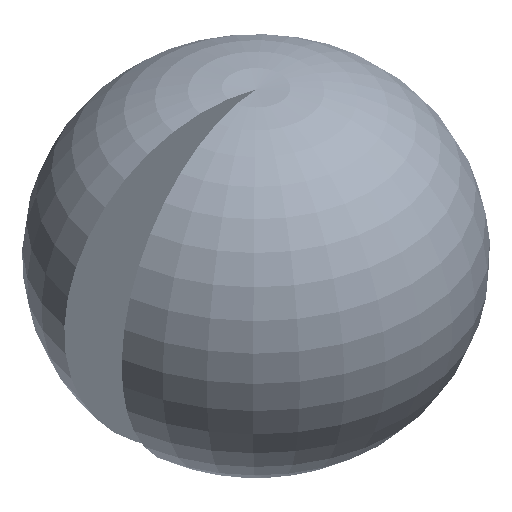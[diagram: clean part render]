
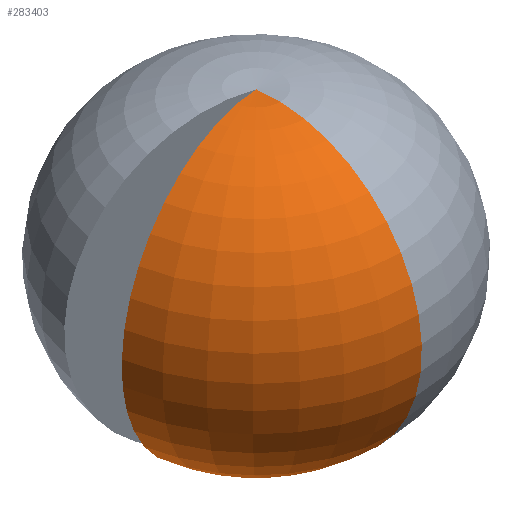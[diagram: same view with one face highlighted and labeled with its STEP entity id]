
A CAD part, isometric view. The second image highlights one B-rep face of the part: STEP entity #283403.
In plain terms, the highlighted toroidal (fillet/blend) face has major radius 279.64 mm and minor radius 2020.25 mm.
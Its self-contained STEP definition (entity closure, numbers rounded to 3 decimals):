
#9505 = AXIS2_PLACEMENT_3D ( 'NONE', #342851, #202472, #163663 ) ;
#20462 = VERTEX_POINT ( 'NONE', #37203 ) ;
#35901 = AXIS2_PLACEMENT_3D ( 'NONE', #294693, #82570, #259810 ) ;
#37203 = CARTESIAN_POINT ( 'NONE',  ( 0., -1438.405, -984.888 ) ) ;
#82554 = ORIENTED_EDGE ( 'NONE', *, *, #319457, .F. ) ;
#82570 = DIRECTION ( 'NONE',  ( 0., 0., 1. ) ) ;
#89555 = CARTESIAN_POINT ( 'NONE',  ( -275.391, -48.559, 670. ) ) ;
#97520 = DIRECTION ( 'NONE',  ( -1., 0., 0. ) ) ;
#120673 = DIRECTION ( 'NONE',  ( -0.174, 0.985, 0. ) ) ;
#128148 = CIRCLE ( 'NONE', #376997, 2020.245 ) ;
#130660 = CIRCLE ( 'NONE', #161540, 2020.245 ) ;
#149482 = VERTEX_POINT ( 'NONE', #270796 ) ;
#152594 = CIRCLE ( 'NONE', #9505, 1438.405 ) ;
#161540 = AXIS2_PLACEMENT_3D ( 'NONE', #89555, #120673, #354472 ) ;
#163663 = DIRECTION ( 'NONE',  ( 0., -1., 0. ) ) ;
#172500 = CARTESIAN_POINT ( 'NONE',  ( 0., 0., 2670.798 ) ) ;
#188444 = ORIENTED_EDGE ( 'NONE', *, *, #370293, .T. ) ;
#190957 = CARTESIAN_POINT ( 'NONE',  ( 0., -279.64, 670. ) ) ;
#202472 = DIRECTION ( 'NONE',  ( 0., 0., 1. ) ) ;
#242943 = EDGE_CURVE ( 'NONE', #149482, #20462, #152594, .T. ) ;
#259810 = DIRECTION ( 'NONE',  ( 0., -1., 0. ) ) ;
#270796 = CARTESIAN_POINT ( 'NONE',  ( -1416.552, -249.776, -984.888 ) ) ;
#283403 = ADVANCED_FACE ( 'NONE', ( #292793 ), #371687, .T. ) ;
#292793 = FACE_OUTER_BOUND ( 'NONE', #341918, .T. ) ;
#294693 = CARTESIAN_POINT ( 'NONE',  ( 0., 0., 670. ) ) ;
#319457 = EDGE_CURVE ( 'NONE', #149482, #349514, #130660, .T. ) ;
#330792 = ORIENTED_EDGE ( 'NONE', *, *, #242943, .T. ) ;
#335077 = DIRECTION ( 'NONE',  ( 0., 0., 1. ) ) ;
#341918 = EDGE_LOOP ( 'NONE', ( #330792, #188444, #82554 ) ) ;
#342851 = CARTESIAN_POINT ( 'NONE',  ( 0., 0., -984.888 ) ) ;
#349514 = VERTEX_POINT ( 'NONE', #172500 ) ;
#354472 = DIRECTION ( 'NONE',  ( -0.985, -0.174, 0. ) ) ;
#370293 = EDGE_CURVE ( 'NONE', #20462, #349514, #128148, .T. ) ;
#371687 = TOROIDAL_SURFACE ( 'NONE', #35901, 279.64, 2020.245 ) ;
#376997 = AXIS2_PLACEMENT_3D ( 'NONE', #190957, #97520, #335077 ) ;
